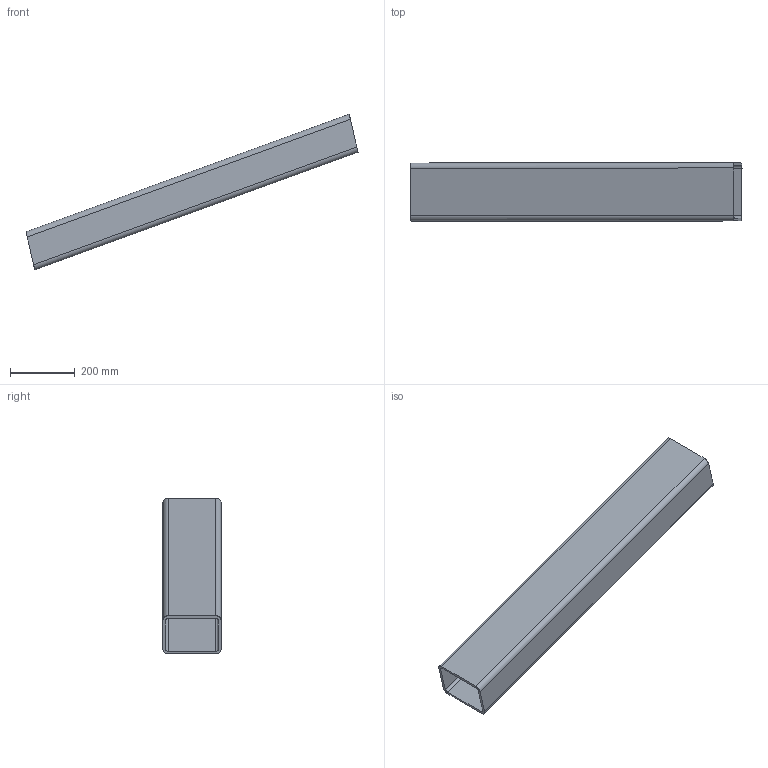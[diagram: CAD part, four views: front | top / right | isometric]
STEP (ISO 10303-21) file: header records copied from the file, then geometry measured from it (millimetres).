
FILE_DESCRIPTION(('FreeCAD Model'),'2;1');
FILE_NAME('C:/Users/Sergio Pluchinsky/Downloads/03.08.0003_Laengtraeger_180x120x009.step', '2017-11-27T19:19:49',('Author'),(''), 'Open CASCADE STEP processor 7.1','FreeCAD','Unknown');
FILE_SCHEMA(('AUTOMOTIVE_DESIGN { 1 0 10303 214 1 1 1 1 }'));
Length unit declared in the file: millimetre
Products named in the file (1): 03.08.0003_Laengtraeger_180x120x009
Bounding box: 1027.97 x 180 x 482.05 mm (x, y, z)
Volume: 4663814.6 mm3; surface area: 1174777.8 mm2
Topology: 1 solids, 1 shells, 18 faces, 48 edges, 32 vertices
Faces by surface type: plane 10, cylinder 8
Entity records: 2481 total; most frequent: CARTESIAN_POINT 1571, DIRECTION 134, ORIENTED_EDGE 96, LINE 96, VECTOR 96, PCURVE 96, DEFINITIONAL_REPRESENTATION 96, EDGE_CURVE 48
